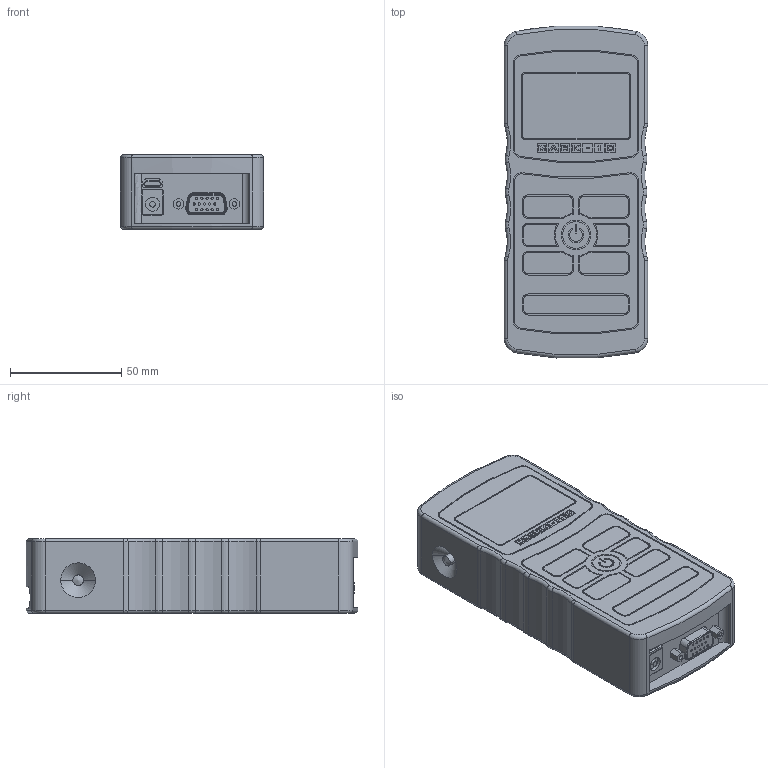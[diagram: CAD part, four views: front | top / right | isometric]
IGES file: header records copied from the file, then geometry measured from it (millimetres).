
Global section: file name: No Iges File Name specified; native system: Autodesk Inventor 2010; preprocessor: AutoDesk Inventor Iges Exporter R2010; author: mlampen; date: 20170405.113751; units: inch
Bounding box: 64.26 x 148.95 x 33.64 mm (x, y, z)
Volume: 291623.4 mm3; surface area: 23698.1 mm2
Topology: 2 solids, 4 shells, 710 faces, 1748 edges, 1125 vertices
Faces by surface type: plane 352, revolution 161, cylinder 107, torus 52, bspline 34, sphere 4
